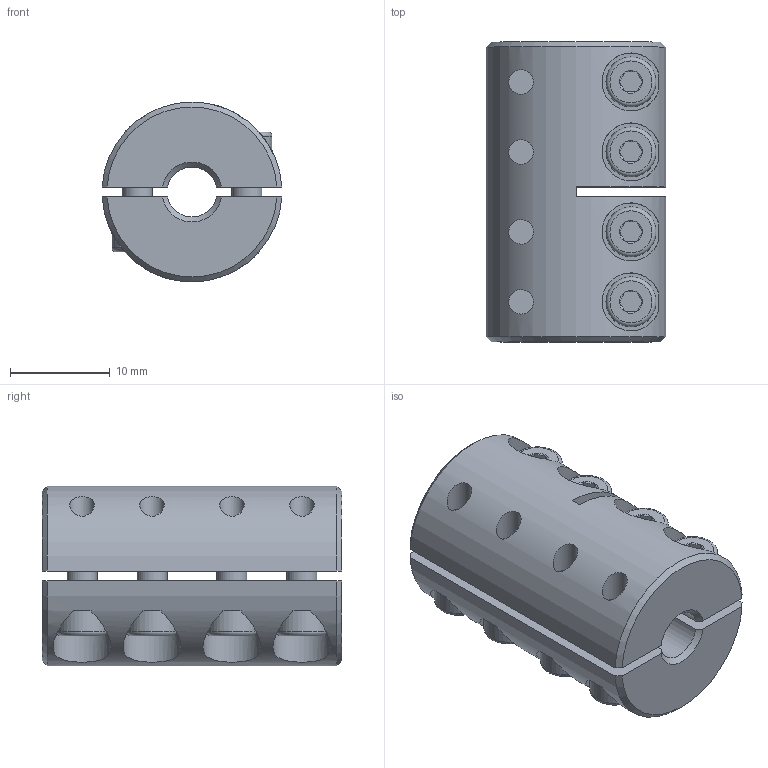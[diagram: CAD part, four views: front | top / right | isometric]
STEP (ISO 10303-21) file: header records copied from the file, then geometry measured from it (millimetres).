
FILE_DESCRIPTION( ( 'Unknown' ), '1' );
FILE_NAME( 'K:/Konstruktion/Fertigungszeichnungen/Schalenkupplung/KBST-G/KBST-G-5.stp', 'Unknown', ( 'Unknown' ), ( 'Unknown' ), 'PSStep 16.0.42', 'Unknown', ' ' );
FILE_SCHEMA( ( 'AUTOMOTIVE_DESIGN { 1 0 10303 214 1 1 1 1 }' ) );
Length unit declared in the file: millimetre
Products named in the file (4): Assem1; ISO EN DIN 4762 M3x8; KBST-G-5
Assembly tree (10 placements, depth 2):
  Assem1
    ISO EN DIN 4762 M3x8  x8
    KBST-G-5
    KBST-G-5
Bounding box: 17.97 x 30 x 18 mm (x, y, z)
Volume: 6170.8 mm3; surface area: 5500.3 mm2
Topology: 10 solids, 10 shells, 260 faces, 500 edges, 300 vertices
Faces by surface type: plane 120, cone 64, cylinder 60, torus 16
Full cylindrical faces by diameter (mm): 2.459 x8, 2.98 x8, 3 x16, 3.2 x8, 5 x8
Entity records: 3878 total; most frequent: CARTESIAN_POINT 1244, DIRECTION 390, ORIENTED_EDGE 326, AXIS2_PLACEMENT_3D 169, EDGE_CURVE 163, EDGE_LOOP 152, VERTEX_POINT 119, FACE_OUTER_BOUND 107
